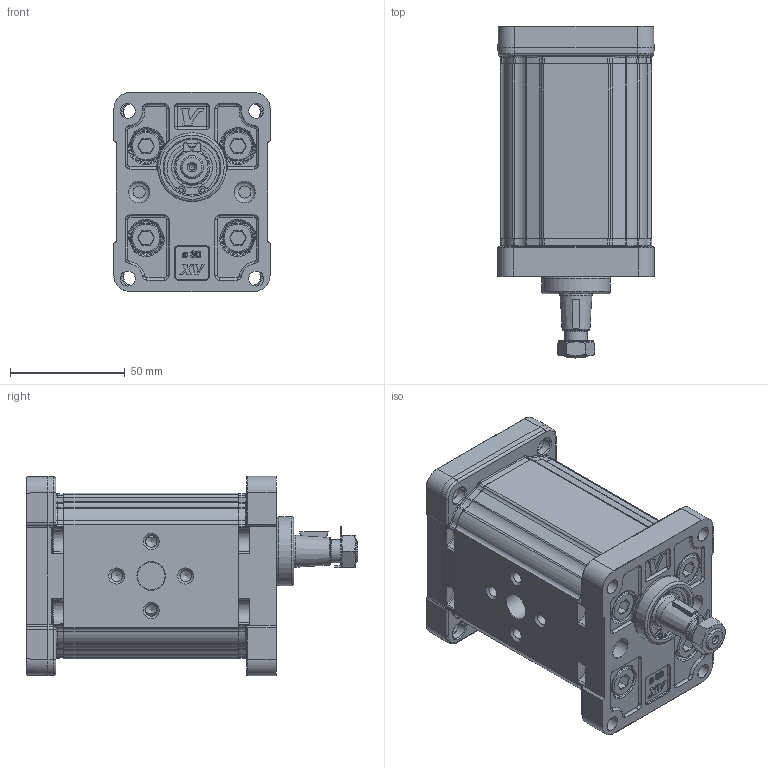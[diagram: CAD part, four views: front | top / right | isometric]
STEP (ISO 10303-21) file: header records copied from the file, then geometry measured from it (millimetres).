
FILE_DESCRIPTION(/* description */ ('Unknown'),/* implementation_level */ '2;1');
FILE_NAME(/* name */ 'X1T3612GIIA',/* time_stamp */ '2026-05-27T08:29:36+02:00',/* author */ ('Unknown'),/* organization */ ('Unknown'),/* preprocessor_version */ 'ST-DEVELOPER v16.7',/* originating_system */ 'Solid Edge',/* authorisation */ 'Unknown');
FILE_SCHEMA (('AUTOMOTIVE_DESIGN {1 0 10303 214 3 1 1}'));
Products named in the file (5): X1T3612GIIA; X1T12; 1G; X1IIH76; XT113-A
Assembly tree (4 placements, depth 2):
  X1T3612GIIA
    X1T12
    1G
    X1IIH76
    XT113-A
Bounding box: 68 x 144.5 x 86.7 mm (x, y, z)
Volume: 466495.6 mm3; surface area: 91906.4 mm2
Topology: 5 solids, 6 shells, 2021 faces, 5027 edges, 3056 vertices
Faces by surface type: cylinder 711, plane 454, torus 351, bspline 276, cone 211, sphere 18
Full cylindrical faces by diameter (mm): 1.678 x2, 2.5 x2, 3 x2, 3.65 x2, 5 x8, 6.5 x4, 6.8 x4, 7.15 x4, 7.99 x4, 8 x4, 8.5 x8, 9 x2, 9.3 x2, 9.337 x4, 9.9 x1, 10 x2, 10.25 x1, 10.5 x2, 11.965 x1, 12 x2, 13 x4, 13.955 x1, 14 x2, 14.923 x1, 17.115 x1, 17.833 x1, 19 x1, 20 x1, 21.4 x1, 22 x1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
Entity records: 82991 total; most frequent: CARTESIAN_POINT 23330, DIRECTION 9499, ORIENTED_EDGE 9330, EDGE_CURVE 4665, AXIS2_PLACEMENT_3D 3973, VERTEX_POINT 2946, FACE_BOUND 2383, EDGE_LOOP 2372
